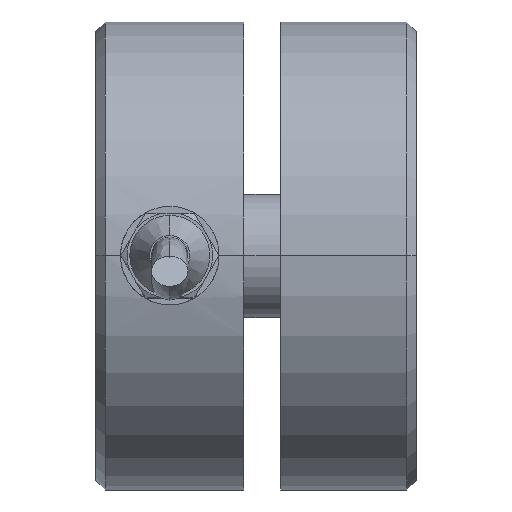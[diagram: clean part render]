
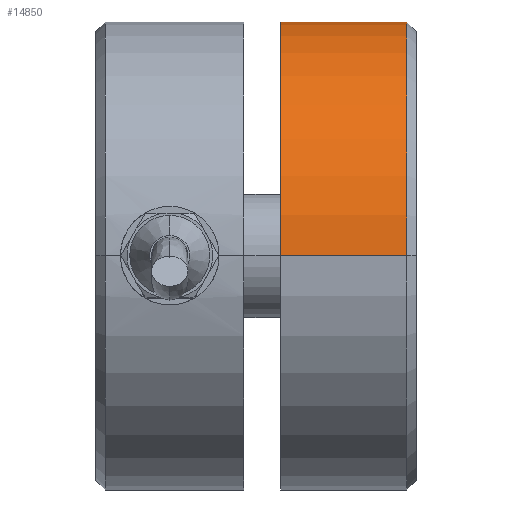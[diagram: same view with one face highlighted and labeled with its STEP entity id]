
A CAD part, top view. The second image highlights one B-rep face of the part: STEP entity #14850.
In plain terms, the highlighted cylindrical face has radius 38 mm (diameter 76 mm), a partial arc.
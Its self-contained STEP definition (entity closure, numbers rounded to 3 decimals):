
#4477=CARTESIAN_POINT('',(18.,0.,0.));
#4478=DIRECTION('',(1.,0.,0.));
#4479=DIRECTION('',(0.,0.,-1.));
#4480=AXIS2_PLACEMENT_3D('',#4477,#4478,#4479);
#4487=CARTESIAN_POINT('',(38.5,0.,0.));
#4488=DIRECTION('',(-1.,0.,0.));
#4489=DIRECTION('',(0.,0.,1.));
#4490=AXIS2_PLACEMENT_3D('',#4487,#4488,#4489);
#4505=DIRECTION('',(-1.,0.,0.));
#4506=VECTOR('',#4505,20.5);
#4507=CARTESIAN_POINT('',(38.5,0.,
-38.));
#4508=LINE('',#4507,#4506);
#4509=DIRECTION('',(-1.,0.,0.));
#4510=VECTOR('',#4509,20.5);
#4511=CARTESIAN_POINT('',(38.5,0.,
38.));
#4512=LINE('',#4511,#4510);
#8839=CARTESIAN_POINT('',(18.,0.,-38.));
#8840=CARTESIAN_POINT('',(18.,0.,38.));
#8841=VERTEX_POINT('',#8839);
#8842=VERTEX_POINT('',#8840);
#9361=CARTESIAN_POINT('',(38.5,0.,-38.));
#9362=CARTESIAN_POINT('',(38.5,0.,38.));
#9363=VERTEX_POINT('',#9361);
#9364=VERTEX_POINT('',#9362);
#14836=CARTESIAN_POINT('',(-14.6,0.,0.));
#14837=DIRECTION('',(1.,0.,0.));
#14838=DIRECTION('',(0.,0.,1.));
#14839=AXIS2_PLACEMENT_3D('',#14836,#14837,#14838);
#14840=CYLINDRICAL_SURFACE('',#14839,38.);
#14842=ORIENTED_EDGE('',*,*,#14841,.F.);
#14844=ORIENTED_EDGE('',*,*,#14843,.T.);
#14845=ORIENTED_EDGE('',*,*,#14825,.F.);
#14847=ORIENTED_EDGE('',*,*,#14846,.F.);
#14848=EDGE_LOOP('',(#14842,#14844,#14845,#14847));
#14849=FACE_OUTER_BOUND('',#14848,.F.);
#4481=CIRCLE('',#4480,38.);
#4491=CIRCLE('',#4490,38.);
#14825=EDGE_CURVE('',#8841,#8842,#4481,.T.);
#14841=EDGE_CURVE('',#9364,#9363,#4491,.T.);
#14843=EDGE_CURVE('',#9364,#8842,#4512,.T.);
#14846=EDGE_CURVE('',#9363,#8841,#4508,.T.);
#14850=ADVANCED_FACE('',(#14849),#14840,.T.);
